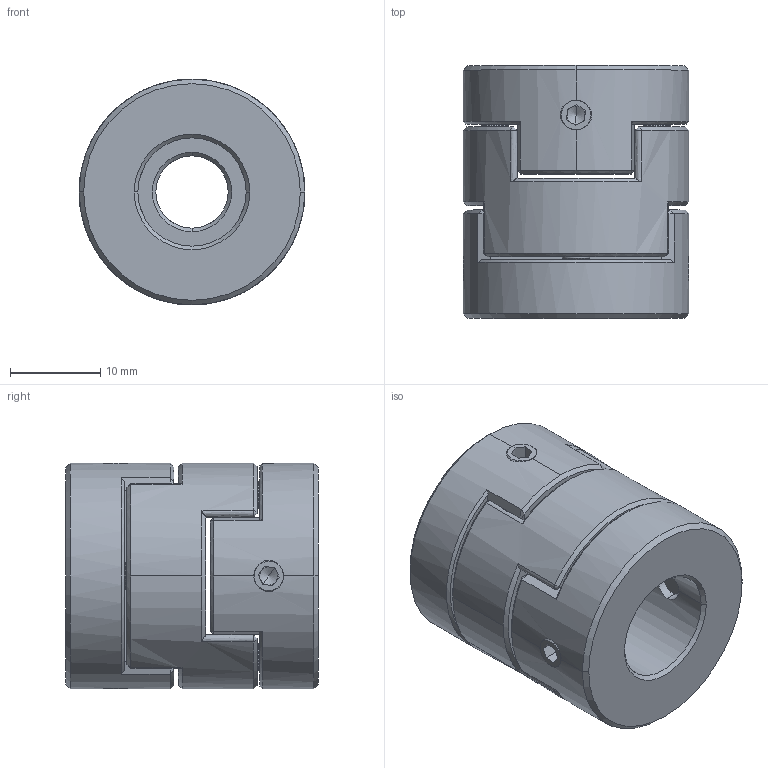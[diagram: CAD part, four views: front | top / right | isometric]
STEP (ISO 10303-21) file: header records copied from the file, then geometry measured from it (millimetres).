
FILE_DESCRIPTION (( 'STEP AP203' ), '1' );
FILE_NAME ('LZ-D-D25L28-8-12.STEP', '2021-10-30T02:20:34', ( '' ), ( '' ), 'SwSTEP 2.0', 'SolidWorks 2018', '' );
FILE_SCHEMA (( 'CONFIG_CONTROL_DESIGN' ));
Length unit declared in the file: millimetre
Products named in the file (1): LZ-D-D25L28-8-12
Bounding box: 25 x 28 x 25 mm (x, y, z)
Volume: 10814.4 mm3; surface area: 5530.9 mm2
Topology: 1 solids, 1 shells, 219 faces, 580 edges, 352 vertices
Faces by surface type: plane 89, cone 54, bspline 50, cylinder 26
Entity records: 9948 total; most frequent: CARTESIAN_POINT 4981, ORIENTED_EDGE 1144, DIRECTION 842, EDGE_CURVE 572, VERTEX_POINT 352, AXIS2_PLACEMENT_3D 306, EDGE_LOOP 234, VECTOR 230
